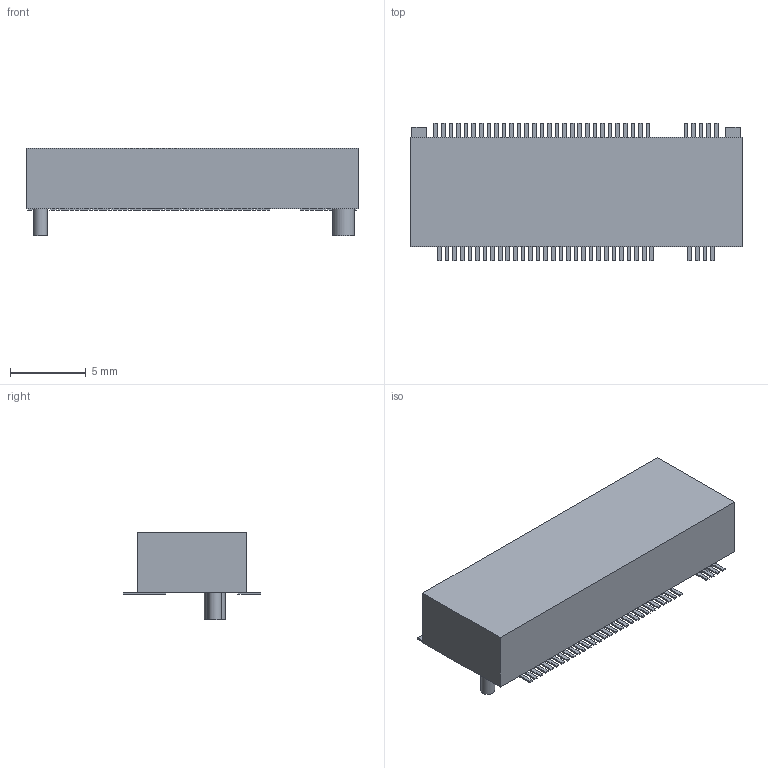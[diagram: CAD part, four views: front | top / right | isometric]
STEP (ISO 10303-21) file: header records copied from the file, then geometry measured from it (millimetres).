
FILE_DESCRIPTION(('FreeCAD Model'),'2;1');
FILE_NAME('/var/www/3D/0T/14605280.1.2.stp','2021-12-11T19:27:34',( 'Author'),(''),'Open CASCADE STEP processor 6.9','FreeCAD','Unknown' );
FILE_SCHEMA(('AUTOMOTIVE_DESIGN { 1 0 10303 214 1 1 1 1 }'));
Length unit declared in the file: millimetre
Products named in the file (4): ASSEMBLY; Body; Pins; Lugs
Assembly tree (3 placements, depth 2):
  ASSEMBLY
    Body
    Pins
    Lugs
Bounding box: 21.9 x 9.04 x 5.8 mm (x, y, z)
Volume: 637.5 mm3; surface area: 647.6 mm2
Topology: 72 solids, 72 shells, 426 faces, 846 edges, 564 vertices
Faces by surface type: plane 424, cylinder 2
Full cylindrical faces by diameter (mm): 0.9 x1, 1.4 x1
Entity records: 22327 total; most frequent: CARTESIAN_POINT 3532, DIRECTION 3402, LINE 2530, VECTOR 2530, ORIENTED_EDGE 1692, PCURVE 1692, DEFINITIONAL_REPRESENTATION 1692, EDGE_CURVE 846
